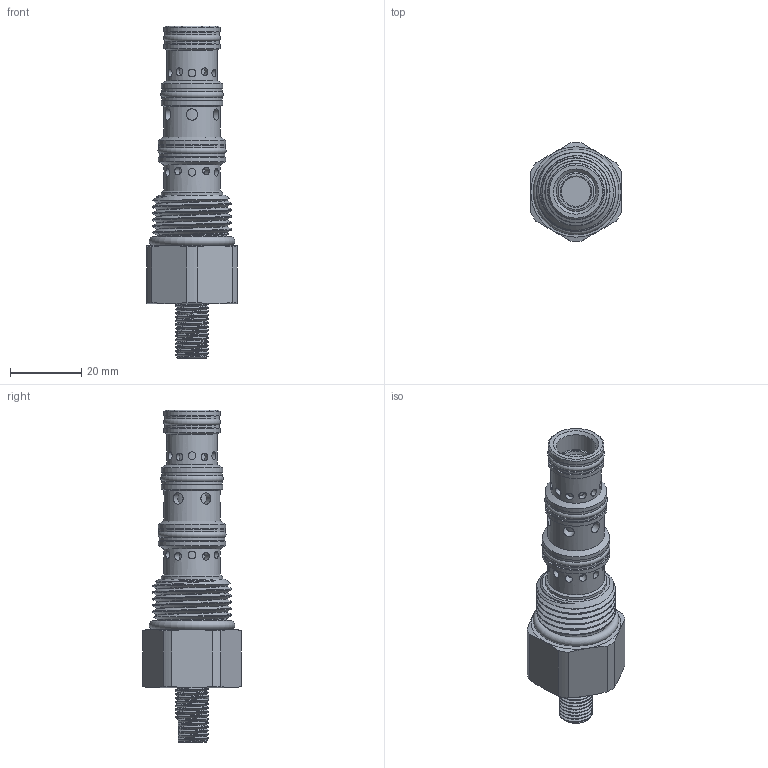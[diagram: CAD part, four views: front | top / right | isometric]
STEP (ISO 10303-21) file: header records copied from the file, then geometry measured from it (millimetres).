
FILE_DESCRIPTION(/* description */ ('','CAx-IF Rec.Pracs.---Representation and Presentation of Product Manufacturing Information (PMI)---4.0---2014-10-13'),/* implementation_level */ '2;1');
FILE_NAME(/* name */ 'P:\EARS\EAR16xx\EAR1683 - catalog pages changes\Group3_Distribution_1_18_23\RTeck Agency_Tom_UNSENT\_step files\HDGM4C00.stp',/* time_stamp */ '2023-01-25T15:22:05-06:00',/* author */ ('Michael'),/* organization */ (''),/* preprocessor_version */ 'ST-DEVELOPER v17.2',/* originating_system */ 'Autodesk Inventor 2019',/* authorisation */ '');
FILE_SCHEMA (('AP242_MANAGED_MODEL_BASED_3D_ENGINEERING_MIM_LF { 1 0 10303 442 1 1 4 }'));
Length unit declared in the file: inch
Products named in the file (1): HDGM4C00
Bounding box: 25.4 x 27.82 x 93.34 mm (x, y, z)
Volume: 23818.2 mm3; surface area: 9987.9 mm2
Topology: 1 solids, 1 shells, 257 faces, 650 edges, 441 vertices
Faces by surface type: cylinder 123, plane 55, bspline 38, cone 29, torus 12
Full cylindrical faces by diameter (mm): 2.184 x24, 3.175 x6, 3.969 x1, 9.525 x9, 11.1 x1, 11.11 x1, 12.992 x4, 14.275 x1, 14.592 x4, 15.392 x2, 15.773 x2, 15.875 x2, 16.167 x4, 16.967 x2, 17.323 x1, 17.374 x2, 17.399 x1, 18.567 x2, 18.948 x2, 19.621 x2, 22.225 x4
Entity records: 17926 total; most frequent: CARTESIAN_POINT 11960, ORIENTED_EDGE 1298, DIRECTION 956, EDGE_CURVE 649, VERTEX_POINT 441, AXIS2_PLACEMENT_3D 408, EDGE_LOOP 317, B_SPLINE_CURVE_WITH_KNOTS 282
